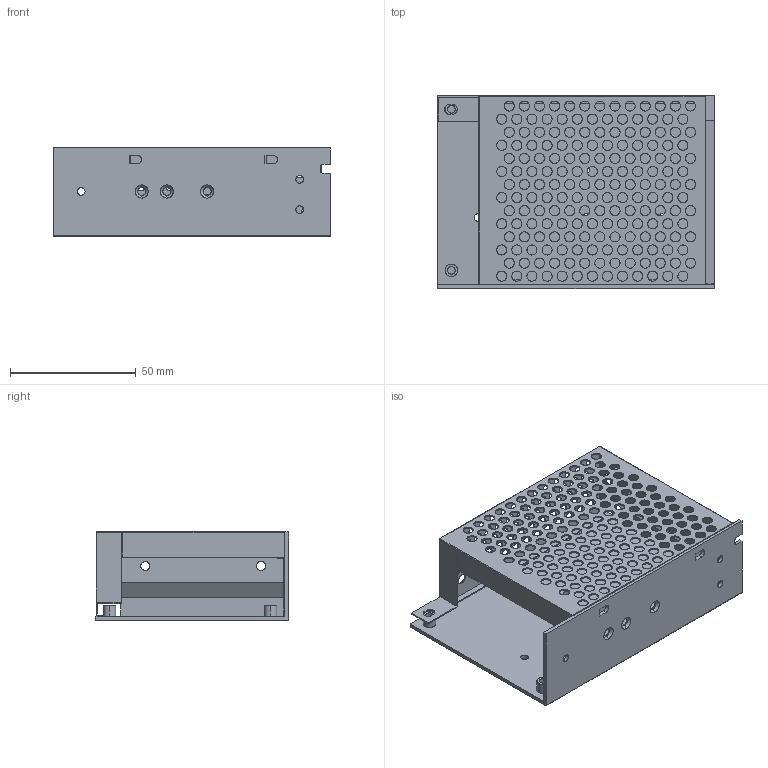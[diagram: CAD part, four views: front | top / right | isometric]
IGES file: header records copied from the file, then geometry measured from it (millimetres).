
Start section: SolidWorks IGES file using analytic representation for surfaces
Global section: file name: G:\Berran Hooper\CAD Files\Dan Coggins\VCS50.IGS; native system: SolidWorks 2016; preprocessor: SolidWorks 2016; author: bhooper; date: 160613.114211; units: millimetre
Bounding box: 110 x 76.7 x 35 mm (x, y, z)
Surface area: 49383.9 mm2 (no closed solid volume)
Topology: 0 solids, 0 shells, 657 faces, 19945 edges, 19939 vertices
Faces by surface type: revolution 558, bspline 99
